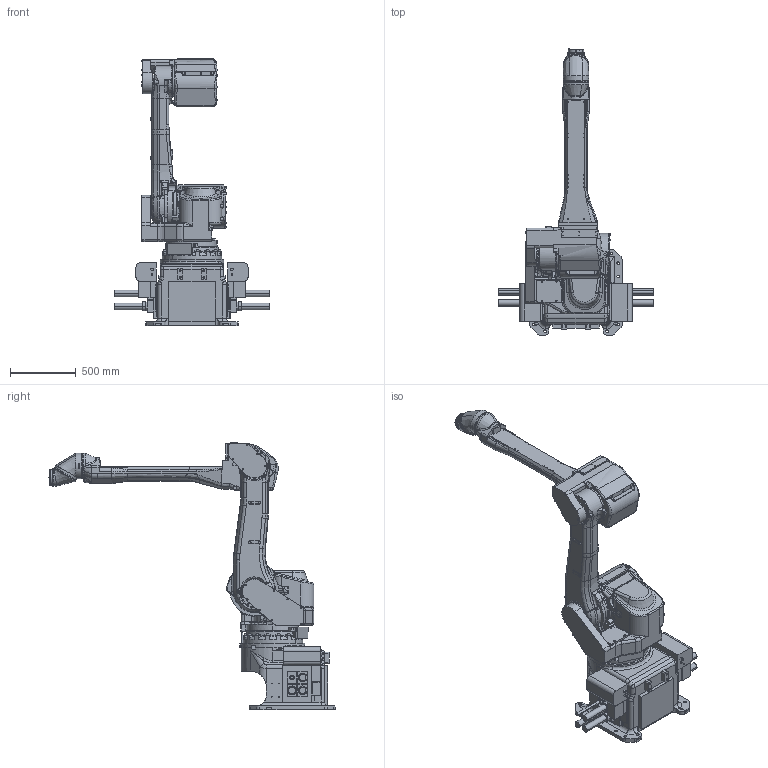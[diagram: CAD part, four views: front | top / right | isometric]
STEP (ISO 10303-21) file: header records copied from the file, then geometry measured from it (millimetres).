
FILE_DESCRIPTION(('CATIA V5 STEP Exchange'),'2;1');
FILE_NAME('D:\モデリング\☆☆☆STEP\KJ\KJ244\MODEL\KJ244J 国内仕様\KJ244J-B001\KJ244J-B001-FLOOR.stp','2018-07-27T04:04:15+00:00',('none'),('none'),'CATIA Version 5-6 Release 2016 SP4 HF10','CATIA V5 STEP AP203','none');
FILE_SCHEMA(('CONFIG_CONTROL_DESIGN'));
Products named in the file (1): KJ244J-B001
Assembly tree (7 placements, depth 2):
  KJ244J-B001
    #57
    #26868
    #46370
    #69670
    #103165
    #106669
    #111228
Bounding box: 1178 x 2178 x 2031 mm (x, y, z)
Volume: 353855540.2 mm3; surface area: 8320802.6 mm2
Topology: 11 solids, 11 shells, 2466 faces, 8538 edges, 6303 vertices
Faces by surface type: plane 1002, cylinder 914, bspline 307, torus 117, cone 85, revolution 18, sphere 15, extrusion 8
Entity records: 121510 total; most frequent: CARTESIAN_POINT 55845, ORIENTED_EDGE 16930, DIRECTION 8471, EDGE_CURVE 8465, VERTEX_POINT 6303, AXIS2_PLACEMENT_3D 3834, B_SPLINE_CURVE_WITH_KNOTS 3762, EDGE_LOOP 2788
